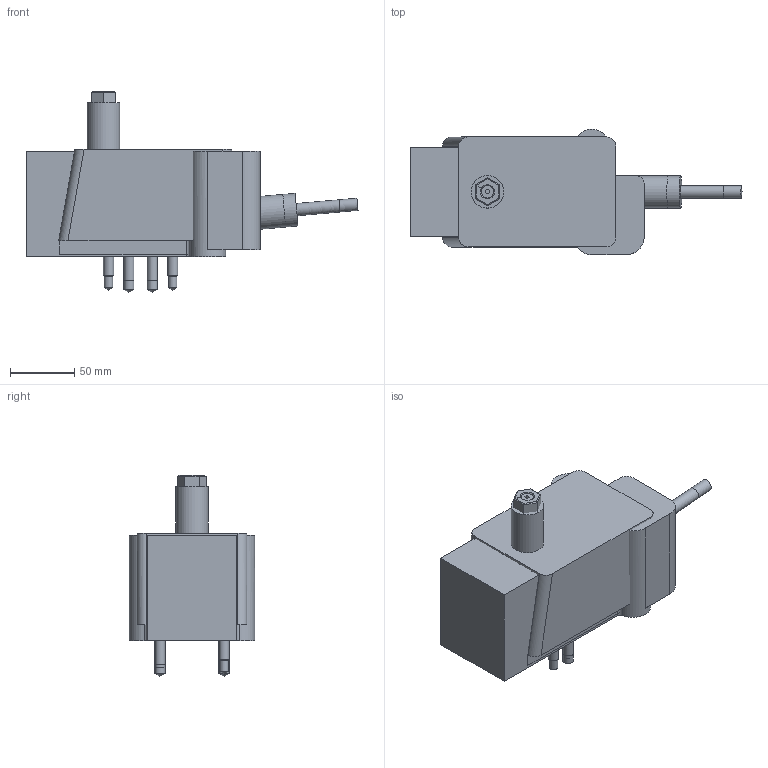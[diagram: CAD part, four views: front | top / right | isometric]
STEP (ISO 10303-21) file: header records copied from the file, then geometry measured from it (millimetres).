
FILE_DESCRIPTION(('STEP AP214'),'1');
FILE_NAME('0011_EZ-05-S-L_201209.stp','2020-12-14T12:20:54',(' '),(' '),'Spatial InterOp 3D',' ',' ');
FILE_SCHEMA(('AUTOMOTIVE_DESIGN { 1 0 10303 214 1 1 1 1 }'));
Length unit declared in the file: metre
Products named in the file (20): 1583513650; 1582908874; 1582908804; 1562099358; 1562100740; 1583159039; 1607624944; 1607626708; 1607626245; 1580688599; 1580700033; 1580702734; 1607690911; 1580689014; 1580689030; 1580689046; 1580689062; 1580689236; 1580689244; 1
Bounding box: 258.9 x 97.75 x 156.95 mm (x, y, z)
Volume: 2651595.5 mm3; surface area: 235979.8 mm2
Topology: 19 solids, 19 shells, 313 faces, 694 edges, 442 vertices
Faces by surface type: plane 174, cylinder 72, cone 54, torus 6, bspline 4, sphere 3
Full cylindrical faces by diameter (mm): 2.8 x1, 3.797 x1, 4.8 x1, 4.826 x3, 4.917 x1, 5 x1, 5.159 x1, 6 x1, 6.35 x1, 6.528 x2, 7.938 x9, 8.5 x2, 8.731 x1, 9.51 x1, 9.525 x4, 11.906 x2, 12.7 x2, 14.25 x2, 15.875 x1, 25.146 x1, 25.4 x1, 25.527 x1, 26.746 x2, 26.924 x1, 27 x1, 50.292 x1, 50.8 x1
Entity records: 21477 total; most frequent: CARTESIAN_POINT 11897, DIRECTION 1391, ORIENTED_EDGE 1114, EDGE_CURVE 557, AXIS2_PLACEMENT_3D 546, EDGE_LOOP 444, VERTEX_POINT 404, STYLED_ITEM 393
